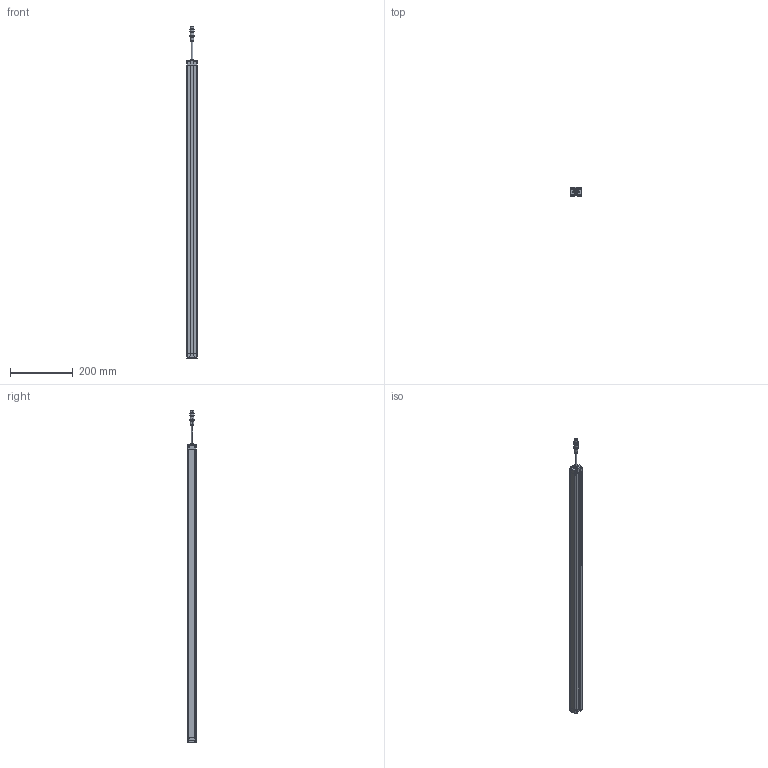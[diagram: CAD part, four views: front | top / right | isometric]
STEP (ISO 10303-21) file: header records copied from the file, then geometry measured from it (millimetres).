
FILE_DESCRIPTION((''),'2;1');
FILE_NAME('SMT1-CGQ_ASM','2025-08-08T08:33:56',('Administrator'),(''),'CREO PARAMETRIC BY PTC INC, 2016510','CREO PARAMETRIC BY PTC INC, 2016510','');
FILE_SCHEMA(('CONFIG_CONTROL_DESIGN'));
Length unit declared in the file: millimetre
Products named in the file (7): SMT1-XINGCAI-V1; SMT1-SDG-V1; SMT1-XDG-V1; M12-CHATOU; ST3X18; CT4-LVGUANGBAN; SMT1-CGQ_ASM
Assembly tree (13 placements, depth 2):
  SMT1-CGQ_ASM
    SMT1-XINGCAI-V1
    SMT1-SDG-V1
    SMT1-XDG-V1
    M12-CHATOU
    ST3X18  x8
    CT4-LVGUANGBAN
Bounding box: 33 x 28.02 x 1059.5 mm (x, y, z)
Volume: 737258.3 mm3; surface area: 238384.9 mm2
Topology: 13 solids, 13 shells, 712 faces, 1868 edges, 1200 vertices
Faces by surface type: plane 382, cylinder 184, extrusion 86, sphere 32, cone 20, bspline 8
Entity records: 18128 total; most frequent: CARTESIAN_POINT 4347, ORIENTED_EDGE 2916, DIRECTION 2580, EDGE_CURVE 1458, VECTOR 1036, VERTEX_POINT 955, LINE 950, AXIS2_PLACEMENT_3D 772
